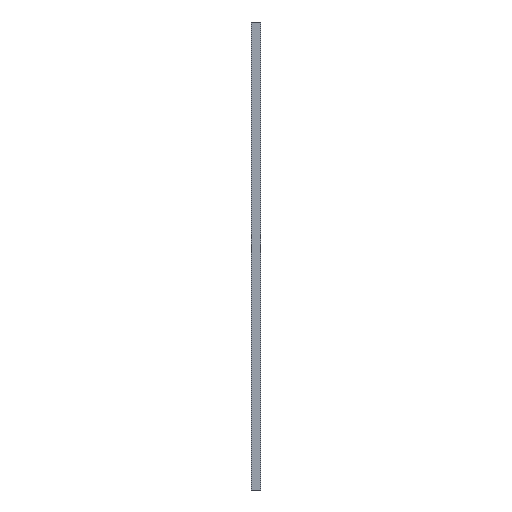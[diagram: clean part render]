
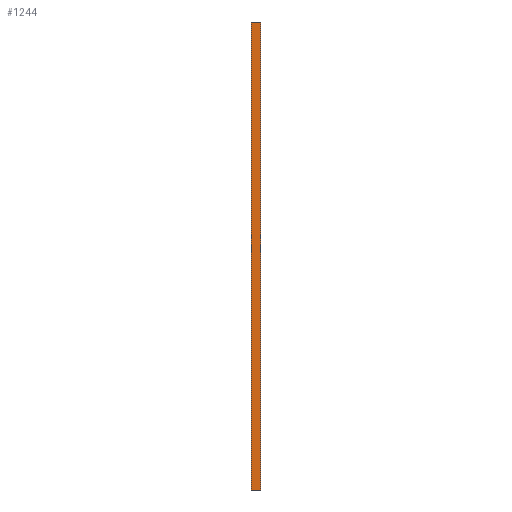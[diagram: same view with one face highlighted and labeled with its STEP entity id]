
A CAD part, left-side view. The second image highlights one B-rep face of the part: STEP entity #1244.
In plain terms, the highlighted planar face has unit normal (-1, 0, 0).
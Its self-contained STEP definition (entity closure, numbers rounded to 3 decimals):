
#429 = VECTOR ( 'NONE', #3370, 1000. ) ;
#508 = LINE ( 'NONE', #1217, #7863 ) ;
#706 = EDGE_CURVE ( 'NONE', #8684, #1264, #508, .T. ) ;
#1018 = EDGE_CURVE ( 'NONE', #5202, #1264, #5071, .T. ) ;
#1217 = CARTESIAN_POINT ( 'NONE',  ( 0., 0., -1500. ) ) ;
#1244 = ADVANCED_FACE ( 'NONE', ( #7909 ), #4805, .F. ) ;
#1264 = VERTEX_POINT ( 'NONE', #2624 ) ;
#1279 = ORIENTED_EDGE ( 'NONE', *, *, #1018, .F. ) ;
#1707 = EDGE_CURVE ( 'NONE', #6995, #5202, #3298, .T. ) ;
#1784 = CARTESIAN_POINT ( 'NONE',  ( 0., 0., 1500. ) ) ;
#2121 = CARTESIAN_POINT ( 'NONE',  ( 0., 0., 1500. ) ) ;
#2624 = CARTESIAN_POINT ( 'NONE',  ( 0., 0., -1500. ) ) ;
#3298 = LINE ( 'NONE', #1784, #8519 ) ;
#3370 = DIRECTION ( 'NONE',  ( 0., 0., -1. ) ) ;
#3452 = EDGE_CURVE ( 'NONE', #6995, #8684, #4029, .T. ) ;
#3995 = EDGE_LOOP ( 'NONE', ( #6721, #1279, #6684, #6421 ) ) ;
#4029 = LINE ( 'NONE', #4128, #429 ) ;
#4108 = DIRECTION ( 'NONE',  ( 0., -1., 0. ) ) ;
#4128 = CARTESIAN_POINT ( 'NONE',  ( 0., 58., 1500. ) ) ;
#4135 = VECTOR ( 'NONE', #9892, 1000. ) ;
#4756 = DIRECTION ( 'NONE',  ( 1., 0., 0. ) ) ;
#4805 = PLANE ( 'NONE',  #6894 ) ;
#5071 = LINE ( 'NONE', #2121, #4135 ) ;
#5202 = VERTEX_POINT ( 'NONE', #7010 ) ;
#6421 = ORIENTED_EDGE ( 'NONE', *, *, #3452, .T. ) ;
#6488 = DIRECTION ( 'NONE',  ( 0., 0., -1. ) ) ;
#6684 = ORIENTED_EDGE ( 'NONE', *, *, #1707, .F. ) ;
#6721 = ORIENTED_EDGE ( 'NONE', *, *, #706, .T. ) ;
#6894 = AXIS2_PLACEMENT_3D ( 'NONE', #8671, #4756, #6488 ) ;
#6995 = VERTEX_POINT ( 'NONE', #7334 ) ;
#7010 = CARTESIAN_POINT ( 'NONE',  ( 0., 0., 1500. ) ) ;
#7334 = CARTESIAN_POINT ( 'NONE',  ( 0., 58., 1500. ) ) ;
#7863 = VECTOR ( 'NONE', #9661, 1000. ) ;
#7909 = FACE_OUTER_BOUND ( 'NONE', #3995, .T. ) ;
#8519 = VECTOR ( 'NONE', #4108, 1000. ) ;
#8671 = CARTESIAN_POINT ( 'NONE',  ( 0., 0., 1500. ) ) ;
#8684 = VERTEX_POINT ( 'NONE', #9101 ) ;
#9101 = CARTESIAN_POINT ( 'NONE',  ( 0., 58., -1500. ) ) ;
#9661 = DIRECTION ( 'NONE',  ( 0., -1., 0. ) ) ;
#9892 = DIRECTION ( 'NONE',  ( 0., 0., -1. ) ) ;
